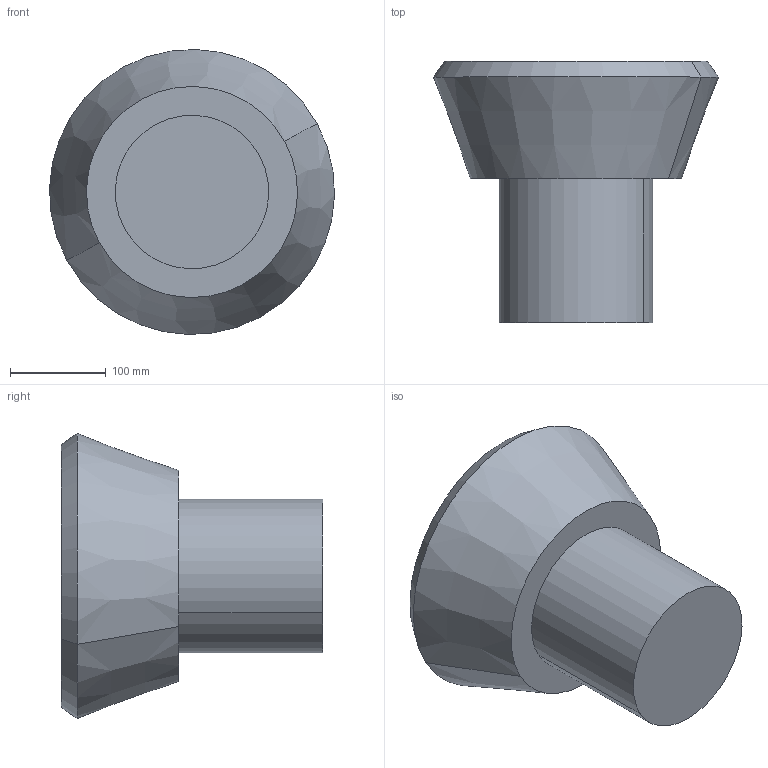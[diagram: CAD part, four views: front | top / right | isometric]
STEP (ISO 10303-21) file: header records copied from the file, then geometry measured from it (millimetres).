
FILE_DESCRIPTION(('CATIA V5 STEP Exchange'),'2;1');
FILE_NAME('C:\_Andres\UNIVERSIDAD\IQS\ASIGNATURAS\DAO\EXF\EXF-15161c\1original\Purroy_Trillo_Ej09-optimiza_v20.stp','2016-03-04T21:55:30+00:00',('none'),('none'),'CATIA Version 5 Release 20 SP 1 (IN-10)','CATIA V5 STEP AP203','none');
FILE_SCHEMA(('CONFIG_CONTROL_DESIGN'));
Length unit declared in the file: millimetre
Products named in the file (1): Purroy_Trillo_Ej09-optimiza_v20
Bounding box: 296.92 x 272.16 x 296.92 mm (x, y, z)
Volume: 9639086.5 mm3; surface area: 286153.3 mm2
Topology: 1 solids, 2 shells, 13 faces, 22 edges, 14 vertices
Faces by surface type: plane 5, cylinder 4, cone 4
Entity records: 324 total; most frequent: CARTESIAN_POINT 47, ORIENTED_EDGE 44, DIRECTION 42, AXIS2_PLACEMENT_3D 25, EDGE_CURVE 22, CIRCLE 14, EDGE_LOOP 14, VERTEX_POINT 14
